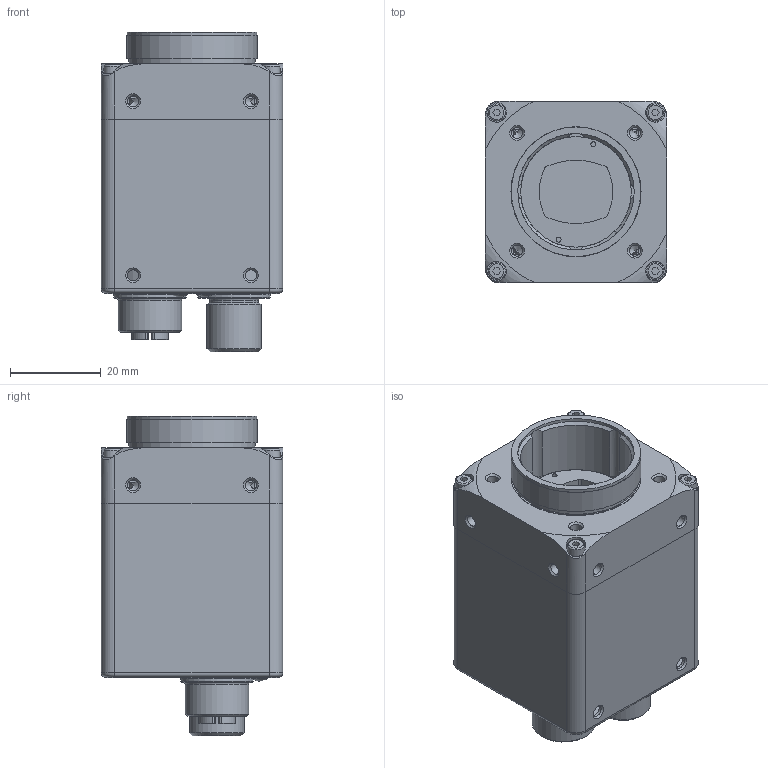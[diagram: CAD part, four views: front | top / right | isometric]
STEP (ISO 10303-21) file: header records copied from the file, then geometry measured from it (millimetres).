
FILE_DESCRIPTION( ( 'Unknown' ), '1' );
FILE_NAME( 'C:/Users/rih/Desktop/11186799_VCXG-25M.I.stp', '14.10.2014', ( 'Unknown' ), ( 'Unknown' ), 'PSStep 15.0.49', 'Unknown', ' ' );
FILE_SCHEMA( ( 'AUTOMOTIVE_DESIGN { 1 0 10303 214 1 1 1 1 }' ) );
Length unit declared in the file: millimetre
Products named in the file (3): 11096515
Bounding box: 40 x 40 x 70.6 mm (x, y, z)
Volume: 26105 mm3; surface area: 30731.3 mm2
Topology: 3 solids, 3 shells, 2677 faces, 7427 edges, 4843 vertices
Faces by surface type: plane 1723, cylinder 724, torus 92, cone 67, sphere 36, bspline 19, extrusion 16
Full cylindrical faces by diameter (mm): 0.217 x2, 0.6 x12, 0.63 x12, 0.7 x8, 0.75 x1, 0.8 x8, 0.85 x1, 1 x3, 1.1 x14, 1.24 x8, 2 x6, 2.4 x4, 2.459 x26, 2.8 x2, 3.4 x2, 3.8 x4, 8 x2, 8.25 x1, 8.3 x1, 8.4 x1, 8.9 x1, 9 x1, 9.3 x2, 9.4 x2, 10 x1, 10.2 x1, 10.75 x1, 11 x1, 12 x3, 13.3 x2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
Entity records: 108780 total; most frequent: CARTESIAN_POINT 19797, DIRECTION 13964, ORIENTED_EDGE 13964, EDGE_CURVE 6982, VERTEX_POINT 4710, AXIS2_PLACEMENT_3D 4655, VECTOR 4654, LINE 4638
